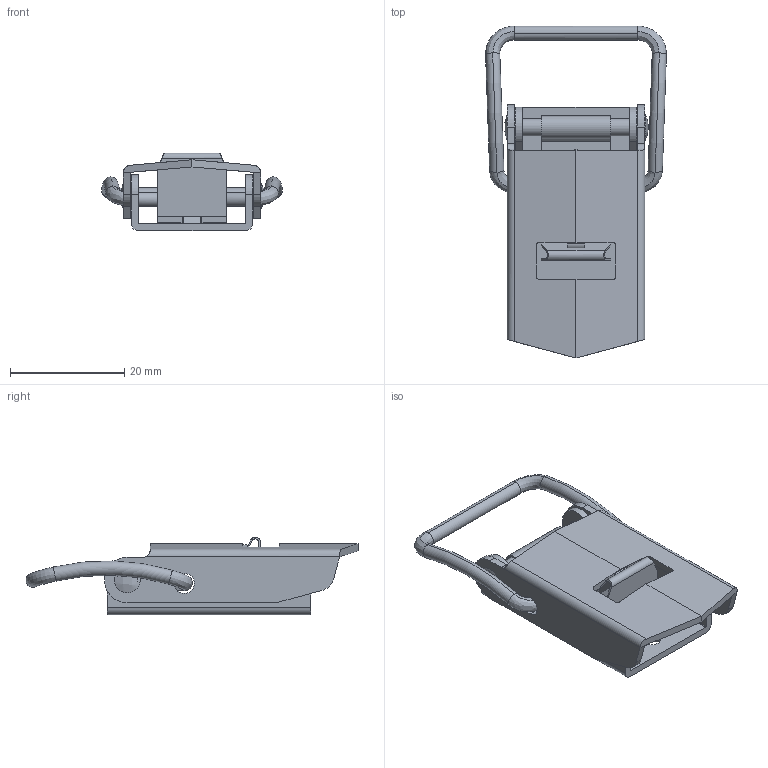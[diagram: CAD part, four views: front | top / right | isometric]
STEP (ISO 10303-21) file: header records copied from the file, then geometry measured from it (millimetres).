
FILE_DESCRIPTION (( 'STEP AP214' ), '1' );
FILE_NAME ('3.ST206.001.STEP', '2014-02-21T12:28:01', ( 'Krzysiek' ), ( '' ), 'SwSTEP 2.0', 'SolidWorks 2014', '' );
FILE_SCHEMA (( 'AUTOMOTIVE_DESIGN' ));
Length unit declared in the file: millimetre
Products named in the file (6): Nit; Sprà¬ynka zabezpieczaj¦ca; Dèwignia; 3.ST206.001; Ramka zamykaj¹ca_A; Stopa
Assembly tree (5 placements, depth 2):
  3.ST206.001
    Dèwignia
    Sprà¬ynka zabezpieczaj¦ca
    Nit
    Stopa
    Ramka zamykaj¹ca_A
Bounding box: 31.67 x 58.14 x 13.6 mm (x, y, z)
Volume: 3912.7 mm3; surface area: 7918.2 mm2
Topology: 5 solids, 5 shells, 189 faces, 535 edges, 352 vertices
Faces by surface type: plane 89, cylinder 77, bspline 19, torus 4
Entity records: 7391 total; most frequent: CARTESIAN_POINT 2227, ORIENTED_EDGE 1070, DIRECTION 1006, EDGE_CURVE 535, VERTEX_POINT 352, AXIS2_PLACEMENT_3D 339, LINE 328, VECTOR 328
